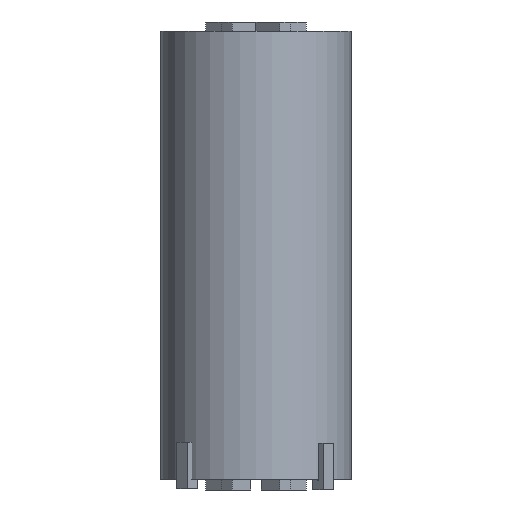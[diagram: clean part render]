
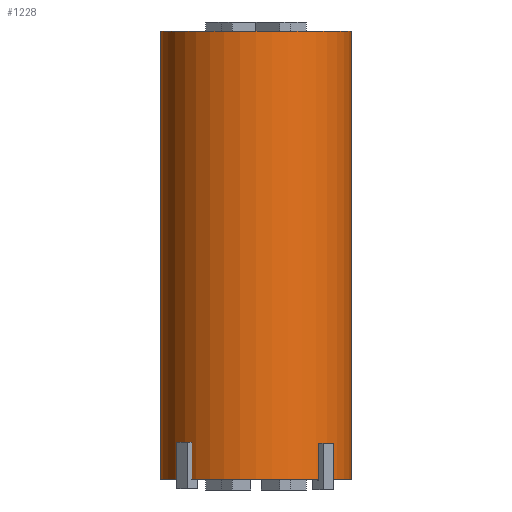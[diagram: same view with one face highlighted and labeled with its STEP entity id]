
A CAD part, left-side view. The second image highlights one B-rep face of the part: STEP entity #1228.
In plain terms, the highlighted cylindrical face has radius 51 mm (diameter 102 mm), a partial arc.
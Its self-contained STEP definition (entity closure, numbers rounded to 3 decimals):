
#147=FACE_OUTER_BOUND('',#220,.T.);
#220=EDGE_LOOP('',(#1044,#1045,#1046,#1047));
#330=LINE('',#1915,#477);
#332=LINE('',#1921,#479);
#477=VECTOR('',#1573,304.8);
#479=VECTOR('',#1579,304.8);
#558=CIRCLE('',#1326,51.);
#559=CIRCLE('',#1327,51.);
#631=VERTEX_POINT('',#1912);
#632=VERTEX_POINT('',#1914);
#633=VERTEX_POINT('',#1918);
#634=VERTEX_POINT('',#1920);
#777=EDGE_CURVE('',#632,#631,#330,.T.);
#779=EDGE_CURVE('',#633,#631,#558,.T.);
#780=EDGE_CURVE('',#634,#633,#332,.T.);
#781=EDGE_CURVE('',#632,#634,#559,.T.);
#1044=ORIENTED_EDGE('',*,*,#779,.F.);
#1045=ORIENTED_EDGE('',*,*,#780,.F.);
#1046=ORIENTED_EDGE('',*,*,#781,.F.);
#1047=ORIENTED_EDGE('',*,*,#777,.T.);
#1182=CYLINDRICAL_SURFACE('',#1325,51.);
#1228=ADVANCED_FACE('',(#147),#1182,.T.);
#1325=AXIS2_PLACEMENT_3D('',#1917,#1575,#1576);
#1326=AXIS2_PLACEMENT_3D('',#1919,#1577,#1578);
#1327=AXIS2_PLACEMENT_3D('',#1922,#1580,#1581);
#1573=DIRECTION('',(0.,0.,1.));
#1575=DIRECTION('center_axis',(0.,0.,1.));
#1576=DIRECTION('ref_axis',(-1.,0.,0.));
#1577=DIRECTION('center_axis',(0.,0.,1.));
#1578=DIRECTION('ref_axis',(1.,0.,0.));
#1579=DIRECTION('',(0.,0.,1.));
#1580=DIRECTION('center_axis',(0.,0.,-1.));
#1581=DIRECTION('ref_axis',(1.,0.,0.));
#1912=CARTESIAN_POINT('',(-36.713,-35.714,245.676));
#1914=CARTESIAN_POINT('',(-36.713,-35.714,5.676));
#1915=CARTESIAN_POINT('',(-36.713,-35.714,5.676));
#1917=CARTESIAN_POINT('Origin',(-73.134,-0.014,5.676));
#1918=CARTESIAN_POINT('',(-36.713,35.686,245.676));
#1919=CARTESIAN_POINT('Origin',(-73.134,-0.014,245.676));
#1920=CARTESIAN_POINT('',(-36.713,35.686,5.676));
#1921=CARTESIAN_POINT('',(-36.713,35.686,5.676));
#1922=CARTESIAN_POINT('Origin',(-73.134,-0.014,5.676));
